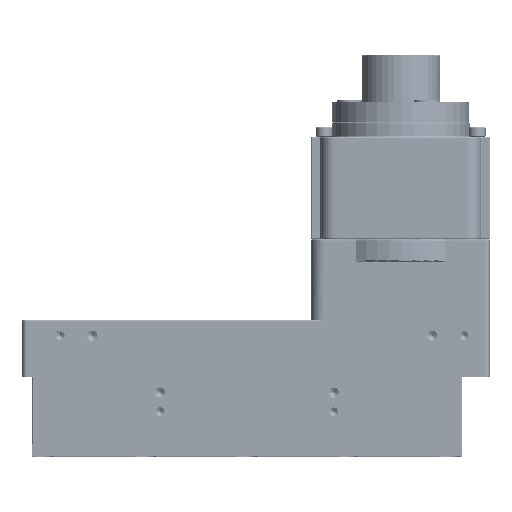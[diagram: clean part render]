
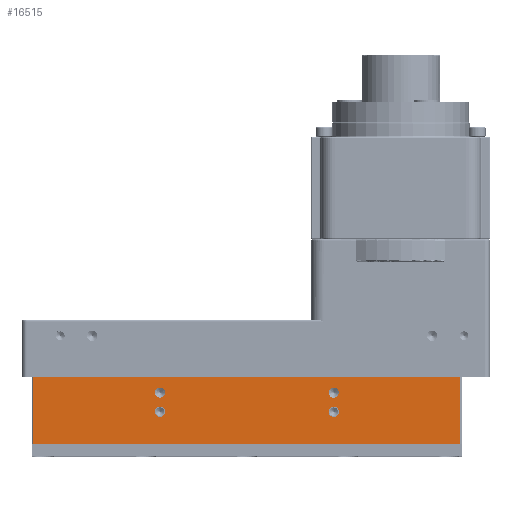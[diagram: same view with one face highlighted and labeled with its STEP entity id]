
A CAD part, top view. The second image highlights one B-rep face of the part: STEP entity #16515.
In plain terms, the highlighted planar face has unit normal (0, 0, 1) as drawn and (0, 0, -1) by its records, which use the part's own axes.
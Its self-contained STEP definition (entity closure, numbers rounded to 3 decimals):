
#2237 = EDGE_LOOP ( 'NONE', ( #55049, #97501 ) ) ;
#3738 = AXIS2_PLACEMENT_3D ( 'NONE', #50760, #78738, #89525 ) ;
#4340 = CARTESIAN_POINT ( 'NONE',  ( -64., 34., -48.8 ) ) ;
#5759 = DIRECTION ( 'NONE',  ( -1., 0., 0. ) ) ;
#10841 = EDGE_CURVE ( 'NONE', #74530, #93260, #74333, .T. ) ;
#11073 = DIRECTION ( 'NONE',  ( 0., 0., -1. ) ) ;
#12094 = PLANE ( 'NONE',  #92935 ) ;
#13977 = DIRECTION ( 'NONE',  ( 1., 0., 0. ) ) ;
#14253 = CARTESIAN_POINT ( 'NONE',  ( -168., 9., -48.8 ) ) ;
#15347 = VERTEX_POINT ( 'NONE', #70457 ) ;
#16071 = ORIENTED_EDGE ( 'NONE', *, *, #54203, .F. ) ;
#16515 = ADVANCED_FACE ( 'NONE', ( #107988, #99118, #79987, #20987, #79368 ), #12094, .F. ) ;
#17526 = LINE ( 'NONE', #115301, #71562 ) ;
#18628 = DIRECTION ( 'NONE',  ( 0., 1., 0. ) ) ;
#20987 = FACE_BOUND ( 'NONE', #33158, .T. ) ;
#21674 = CARTESIAN_POINT ( 'NONE',  ( -167., 61., -48.8 ) ) ;
#22103 = CIRCLE ( 'NONE', #3738, 4. ) ;
#22686 = CARTESIAN_POINT ( 'NONE',  ( -167., 9., -48.8 ) ) ;
#25613 = CARTESIAN_POINT ( 'NONE',  ( -68., 34., -48.8 ) ) ;
#25691 = AXIS2_PLACEMENT_3D ( 'NONE', #86324, #106020, #36196 ) ;
#27033 = ORIENTED_EDGE ( 'NONE', *, *, #93717, .F. ) ;
#27052 = EDGE_CURVE ( 'NONE', #51113, #92811, #105653, .T. ) ;
#28112 = DIRECTION ( 'NONE',  ( 0., 0., -1. ) ) ;
#29328 = VERTEX_POINT ( 'NONE', #68632 ) ;
#29472 = CARTESIAN_POINT ( 'NONE',  ( 68., 49., -48.8 ) ) ;
#29509 = DIRECTION ( 'NONE',  ( -1., 0., 0. ) ) ;
#30709 = DIRECTION ( 'NONE',  ( -1., 0., 0. ) ) ;
#31499 = CARTESIAN_POINT ( 'NONE',  ( 72., 34., -48.8 ) ) ;
#31577 = EDGE_CURVE ( 'NONE', #51113, #90684, #113277, .T. ) ;
#31995 = EDGE_CURVE ( 'NONE', #93260, #74530, #22103, .T. ) ;
#33158 = EDGE_LOOP ( 'NONE', ( #27033, #76646 ) ) ;
#33502 = CARTESIAN_POINT ( 'NONE',  ( 72., 49., -48.8 ) ) ;
#35517 = CIRCLE ( 'NONE', #41544, 4. ) ;
#36196 = DIRECTION ( 'NONE',  ( -1., 0., 0. ) ) ;
#38327 = VECTOR ( 'NONE', #45936, 1000. ) ;
#40884 = CARTESIAN_POINT ( 'NONE',  ( -68., 34., -48.8 ) ) ;
#41544 = AXIS2_PLACEMENT_3D ( 'NONE', #85650, #76090, #114847 ) ;
#42995 = CARTESIAN_POINT ( 'NONE',  ( 167., 9., -48.8 ) ) ;
#44470 = AXIS2_PLACEMENT_3D ( 'NONE', #46960, #53998, #5759 ) ;
#45936 = DIRECTION ( 'NONE',  ( 1., 0., 0. ) ) ;
#46585 = AXIS2_PLACEMENT_3D ( 'NONE', #29472, #79559, #30709 ) ;
#46960 = CARTESIAN_POINT ( 'NONE',  ( -68., 49., -48.8 ) ) ;
#48352 = DIRECTION ( 'NONE',  ( -1., 0., 0. ) ) ;
#50512 = ORIENTED_EDGE ( 'NONE', *, *, #27052, .T. ) ;
#50760 = CARTESIAN_POINT ( 'NONE',  ( 68., 34., -48.8 ) ) ;
#50780 = CARTESIAN_POINT ( 'NONE',  ( 168., 61., -48.8 ) ) ;
#51113 = VERTEX_POINT ( 'NONE', #22686 ) ;
#52896 = AXIS2_PLACEMENT_3D ( 'NONE', #25613, #28112, #48352 ) ;
#53998 = DIRECTION ( 'NONE',  ( 0., 0., -1. ) ) ;
#54203 = EDGE_CURVE ( 'NONE', #15347, #55458, #106497, .T. ) ;
#54291 = VERTEX_POINT ( 'NONE', #101625 ) ;
#54415 = EDGE_CURVE ( 'NONE', #87429, #29328, #35517, .T. ) ;
#54764 = CARTESIAN_POINT ( 'NONE',  ( 167., 61., -48.8 ) ) ;
#55049 = ORIENTED_EDGE ( 'NONE', *, *, #119733, .F. ) ;
#55458 = VERTEX_POINT ( 'NONE', #33502 ) ;
#57640 = VERTEX_POINT ( 'NONE', #62493 ) ;
#57720 = ORIENTED_EDGE ( 'NONE', *, *, #103586, .T. ) ;
#57833 = EDGE_LOOP ( 'NONE', ( #16071, #123659 ) ) ;
#61162 = EDGE_LOOP ( 'NONE', ( #94373, #50512, #111318, #57720 ) ) ;
#61677 = ORIENTED_EDGE ( 'NONE', *, *, #10841, .F. ) ;
#62493 = CARTESIAN_POINT ( 'NONE',  ( 167., 61., -48.8 ) ) ;
#66240 = CARTESIAN_POINT ( 'NONE',  ( -167., 61., -48.8 ) ) ;
#68632 = CARTESIAN_POINT ( 'NONE',  ( -72., 49., -48.8 ) ) ;
#69824 = DIRECTION ( 'NONE',  ( 0., 0., -1. ) ) ;
#70457 = CARTESIAN_POINT ( 'NONE',  ( 64., 49., -48.8 ) ) ;
#71562 = VECTOR ( 'NONE', #114657, 1000. ) ;
#74333 = CIRCLE ( 'NONE', #25691, 4. ) ;
#74530 = VERTEX_POINT ( 'NONE', #104415 ) ;
#75723 = EDGE_LOOP ( 'NONE', ( #61677, #91199 ) ) ;
#76090 = DIRECTION ( 'NONE',  ( 0., 0., -1. ) ) ;
#76646 = ORIENTED_EDGE ( 'NONE', *, *, #120446, .F. ) ;
#78738 = DIRECTION ( 'NONE',  ( 0., 0., -1. ) ) ;
#79368 = FACE_OUTER_BOUND ( 'NONE', #61162, .T. ) ;
#79559 = DIRECTION ( 'NONE',  ( 0., 0., -1. ) ) ;
#79987 = FACE_BOUND ( 'NONE', #75723, .T. ) ;
#83388 = VECTOR ( 'NONE', #111938, 1000. ) ;
#85650 = CARTESIAN_POINT ( 'NONE',  ( -68., 49., -48.8 ) ) ;
#86324 = CARTESIAN_POINT ( 'NONE',  ( 68., 34., -48.8 ) ) ;
#87429 = VERTEX_POINT ( 'NONE', #93809 ) ;
#88976 = EDGE_CURVE ( 'NONE', #55458, #15347, #101391, .T. ) ;
#89525 = DIRECTION ( 'NONE',  ( -1., 0., 0. ) ) ;
#90684 = VERTEX_POINT ( 'NONE', #42995 ) ;
#91199 = ORIENTED_EDGE ( 'NONE', *, *, #31995, .F. ) ;
#92811 = VERTEX_POINT ( 'NONE', #21674 ) ;
#92935 = AXIS2_PLACEMENT_3D ( 'NONE', #50780, #121304, #13977 ) ;
#93260 = VERTEX_POINT ( 'NONE', #31499 ) ;
#93717 = EDGE_CURVE ( 'NONE', #54291, #121292, #101668, .T. ) ;
#93809 = CARTESIAN_POINT ( 'NONE',  ( -64., 49., -48.8 ) ) ;
#94373 = ORIENTED_EDGE ( 'NONE', *, *, #31577, .F. ) ;
#96351 = AXIS2_PLACEMENT_3D ( 'NONE', #97238, #69824, #106744 ) ;
#97238 = CARTESIAN_POINT ( 'NONE',  ( 68., 49., -48.8 ) ) ;
#97396 = EDGE_CURVE ( 'NONE', #57640, #92811, #17526, .T. ) ;
#97501 = ORIENTED_EDGE ( 'NONE', *, *, #54415, .F. ) ;
#99118 = FACE_BOUND ( 'NONE', #57833, .T. ) ;
#101391 = CIRCLE ( 'NONE', #46585, 4. ) ;
#101625 = CARTESIAN_POINT ( 'NONE',  ( -72., 34., -48.8 ) ) ;
#101668 = CIRCLE ( 'NONE', #52896, 4. ) ;
#103102 = LINE ( 'NONE', #54764, #83388 ) ;
#103586 = EDGE_CURVE ( 'NONE', #57640, #90684, #103102, .T. ) ;
#104415 = CARTESIAN_POINT ( 'NONE',  ( 64., 34., -48.8 ) ) ;
#105653 = LINE ( 'NONE', #66240, #123263 ) ;
#106020 = DIRECTION ( 'NONE',  ( 0., 0., -1. ) ) ;
#106497 = CIRCLE ( 'NONE', #96351, 4. ) ;
#106744 = DIRECTION ( 'NONE',  ( -1., 0., 0. ) ) ;
#107988 = FACE_BOUND ( 'NONE', #2237, .T. ) ;
#109080 = CIRCLE ( 'NONE', #125365, 4. ) ;
#111318 = ORIENTED_EDGE ( 'NONE', *, *, #97396, .F. ) ;
#111370 = CIRCLE ( 'NONE', #44470, 4. ) ;
#111938 = DIRECTION ( 'NONE',  ( 0., -1., 0. ) ) ;
#113277 = LINE ( 'NONE', #14253, #38327 ) ;
#114657 = DIRECTION ( 'NONE',  ( -1., 0., 0. ) ) ;
#114847 = DIRECTION ( 'NONE',  ( -1., 0., 0. ) ) ;
#115301 = CARTESIAN_POINT ( 'NONE',  ( 168., 61., -48.8 ) ) ;
#119733 = EDGE_CURVE ( 'NONE', #29328, #87429, #111370, .T. ) ;
#120446 = EDGE_CURVE ( 'NONE', #121292, #54291, #109080, .T. ) ;
#121292 = VERTEX_POINT ( 'NONE', #4340 ) ;
#121304 = DIRECTION ( 'NONE',  ( 0., 0., 1. ) ) ;
#123263 = VECTOR ( 'NONE', #18628, 1000. ) ;
#123659 = ORIENTED_EDGE ( 'NONE', *, *, #88976, .F. ) ;
#125365 = AXIS2_PLACEMENT_3D ( 'NONE', #40884, #11073, #29509 ) ;
